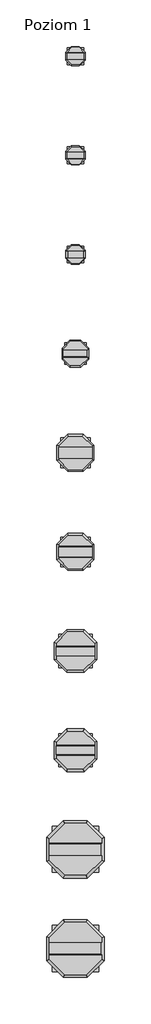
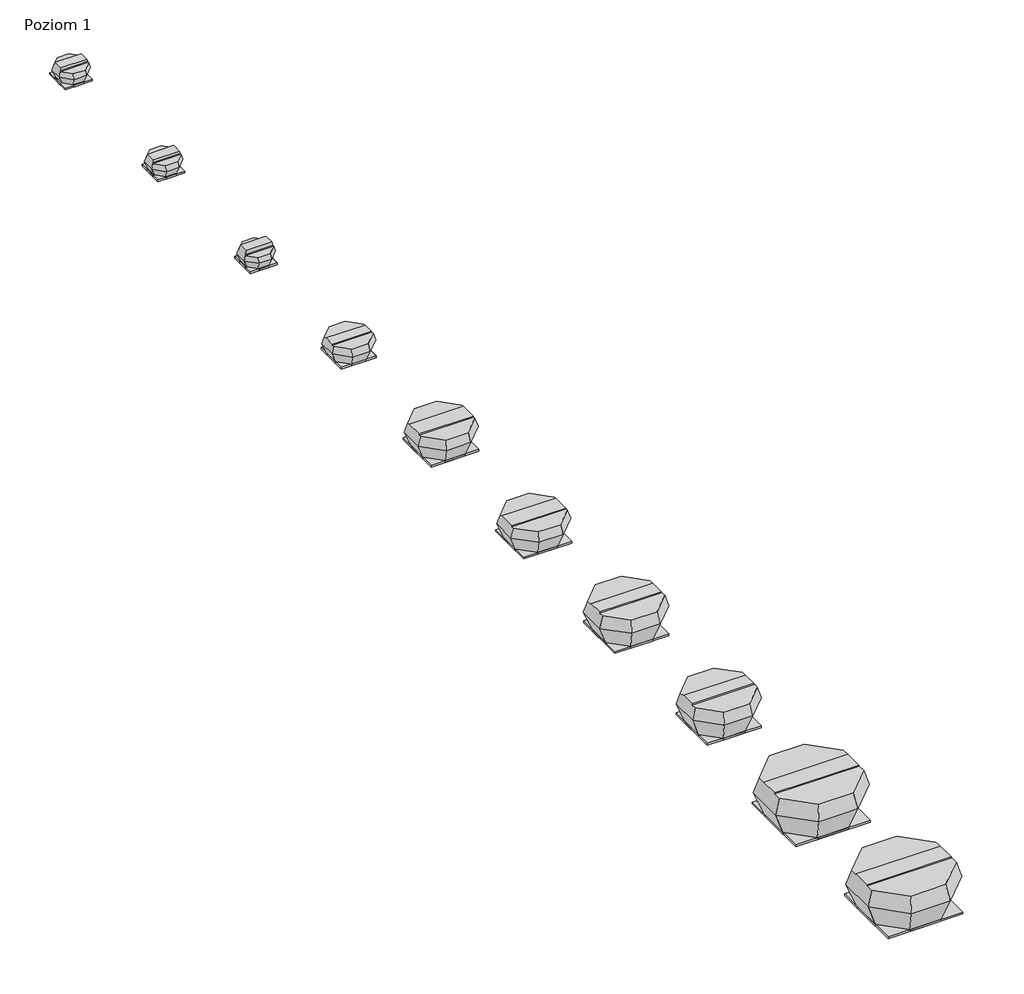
# One storey: 10 duct fittings, 10 unitary equipment elements.
"""IFC4 building model written with IfcOpenShell, lengths in millimetres."""

from ifc_helpers import new_model, si_unit, origin, place, context, project, spatial, transform, mapped, element, save
from components import duct_fitting_180_5dd8c60e, duct_fitting_250_9d40ecca, duct_fitting_400_42e1e227, duct_fitting_560_c8fad201, unitary_equipment_e1577b00, unitary_equipment_c4368d7e, unitary_equipment_ad33cb6a, unitary_equipment_e5baa73c, unitary_equipment_f9dc810f, unitary_equipment_13a05785, unitary_equipment_32682d47, unitary_equipment_6a8eb90f

model = new_model("IFC4")

# Units and contexts
model_context = context("Model", 3, world=origin())
ifc_project = project(units=[si_unit("LENGTHUNIT", "METRE", prefix="MILLI")], contexts=[model_context])

# Site, building, storey
site = spatial("IfcSite", under=ifc_project)
building = spatial("IfcBuilding", under=site)
storey = spatial("IfcBuildingStorey", under=building, Name="Poziom 1", Elevation=0.0)

# Duct fittings
placement = place(None, origin())
duct_fitting_180_shape = duct_fitting_180_5dd8c60e(model_context)
element("IfcDuctFitting", 1, ObjectType="VE-Zagnieżdżone-Akcesorium-ParaForma-Harmann-DAF-Króciec_Przyłączeniowy : 180", at=placement, inside=storey, context=model_context, shape_type="MappedRepresentation", body=[
    mapped(duct_fitting_180_shape, transform((4582.5, 1000.0, 0.0), x_axis=(1.0, 0.0, 0.0), y_axis=(0.0, 1.0, 0.0), z_axis=(0.0, 0.0, 1.0))),
])
element("IfcDuctFitting", 2, ObjectType="VE-Zagnieżdżone-Akcesorium-ParaForma-Harmann-DAF-Króciec_Przyłączeniowy : 180", at=placement, inside=storey, context=model_context, shape_type="MappedRepresentation", body=[
    mapped(duct_fitting_180_shape, transform((4582.5, 3000.0, 0.0), x_axis=(1.0, 0.0, 0.0), y_axis=(0.0, 1.0, 0.0), z_axis=(0.0, 0.0, 1.0))),
])
element("IfcDuctFitting", 3, ObjectType="VE-Zagnieżdżone-Akcesorium-ParaForma-Harmann-DAF-Króciec_Przyłączeniowy : 180", at=placement, inside=storey, context=model_context, shape_type="MappedRepresentation", body=[
    mapped(duct_fitting_180_shape, transform((4582.5, 5000.0, 0.0), x_axis=(1.0, 0.0, 0.0), y_axis=(0.0, 1.0, 0.0), z_axis=(0.0, 0.0, 1.0))),
])
duct_fitting_250_shape = duct_fitting_250_9d40ecca(model_context)
element("IfcDuctFitting", 4, ObjectType="VE-Zagnieżdżone-Akcesorium-ParaForma-Harmann-DAF-Króciec_Przyłączeniowy : 250", at=placement, inside=storey, context=model_context, shape_type="MappedRepresentation", body=[
    mapped(duct_fitting_250_shape, transform((4582.5, -1000.0, 0.0), x_axis=(1.0, 0.0, 0.0), y_axis=(0.0, 1.0, 0.0), z_axis=(0.0, 0.0, 1.0))),
])
duct_fitting_400_shape = duct_fitting_400_42e1e227(model_context)
element("IfcDuctFitting", 5, ObjectType="VE-Zagnieżdżone-Akcesorium-ParaForma-Harmann-DAF-Króciec_Przyłączeniowy : 400", at=placement, inside=storey, context=model_context, shape_type="MappedRepresentation", body=[
    mapped(duct_fitting_400_shape, transform((4582.5, -5000.0, 0.0), x_axis=(1.0, 0.0, 0.0), y_axis=(0.0, 1.0, 0.0), z_axis=(0.0, 0.0, 1.0))),
])
element("IfcDuctFitting", 6, ObjectType="VE-Zagnieżdżone-Akcesorium-ParaForma-Harmann-DAF-Króciec_Przyłączeniowy : 400", at=placement, inside=storey, context=model_context, shape_type="MappedRepresentation", body=[
    mapped(duct_fitting_400_shape, transform((4582.5, -3000.0, 0.0), x_axis=(1.0, 0.0, 0.0), y_axis=(0.0, 1.0, 0.0), z_axis=(0.0, 0.0, 1.0))),
])
element("IfcDuctFitting", 7, ObjectType="VE-Zagnieżdżone-Akcesorium-ParaForma-Harmann-DAF-Króciec_Przyłączeniowy : 400", at=placement, inside=storey, context=model_context, shape_type="MappedRepresentation", body=[
    mapped(duct_fitting_400_shape, transform((4582.5, -9000.0, 0.0), x_axis=(1.0, 0.0, 0.0), y_axis=(0.0, 1.0, 0.0), z_axis=(0.0, 0.0, 1.0))),
])
element("IfcDuctFitting", 8, ObjectType="VE-Zagnieżdżone-Akcesorium-ParaForma-Harmann-DAF-Króciec_Przyłączeniowy : 400", at=placement, inside=storey, context=model_context, shape_type="MappedRepresentation", body=[
    mapped(duct_fitting_400_shape, transform((4582.5, -7000.0, 0.0), x_axis=(1.0, 0.0, 0.0), y_axis=(0.0, 1.0, 0.0), z_axis=(0.0, 0.0, 1.0))),
])
duct_fitting_560_shape = duct_fitting_560_c8fad201(model_context)
element("IfcDuctFitting", 9, ObjectType="VE-Zagnieżdżone-Akcesorium-ParaForma-Harmann-DAF-Króciec_Przyłączeniowy : 560", at=placement, inside=storey, context=model_context, shape_type="MappedRepresentation", body=[
    mapped(duct_fitting_560_shape, transform((4582.5, -13000.0, 0.0), x_axis=(1.0, 0.0, 0.0), y_axis=(0.0, 1.0, 0.0), z_axis=(0.0, 0.0, 1.0))),
])
element("IfcDuctFitting", 10, ObjectType="VE-Zagnieżdżone-Akcesorium-ParaForma-Harmann-DAF-Króciec_Przyłączeniowy : 560", at=placement, inside=storey, context=model_context, shape_type="MappedRepresentation", body=[
    mapped(duct_fitting_560_shape, transform((4582.5, -11000.0, 0.0), x_axis=(1.0, 0.0, 0.0), y_axis=(0.0, 1.0, 0.0), z_axis=(0.0, 0.0, 1.0))),
])

# Unitary equipment
unitary_equipment_shape = unitary_equipment_e1577b00(model_context)
element("IfcUnitaryEquipment", 11, ObjectType="VE-Wentylator-ParaForma-Harmann-VIVER_PT-Wywiewny : 2-190/600PT", at=placement, inside=storey, context=model_context, shape_type="MappedRepresentation", body=[
    mapped(unitary_equipment_shape, transform((4582.5, 5000.0, 0.0), x_axis=(1.0, 0.0, 0.0), y_axis=(0.0, 1.0, 0.0), z_axis=(0.0, 0.0, 1.0))),
])
element("IfcUnitaryEquipment", 12, ObjectType="VE-Wentylator-ParaForma-Harmann-VIVER_PT-Wywiewny : 2-220/950PT", at=placement, inside=storey, context=model_context, shape_type="MappedRepresentation", body=[
    mapped(unitary_equipment_shape, transform((4582.5, 3000.0, 0.0), x_axis=(1.0, 0.0, 0.0), y_axis=(0.0, 1.0, 0.0), z_axis=(0.0, 0.0, 1.0))),
])
unitary_equipment_2_shape = unitary_equipment_c4368d7e(model_context)
element("IfcUnitaryEquipment", 13, ObjectType="VE-Wentylator-ParaForma-Harmann-VIVER_PT-Wywiewny : 2-250/1200PT", at=placement, inside=storey, context=model_context, shape_type="MappedRepresentation", body=[
    mapped(unitary_equipment_2_shape, transform((4582.5, 1000.0, 0.0), x_axis=(1.0, 0.0, 0.0), y_axis=(0.0, 1.0, 0.0), z_axis=(0.0, 0.0, 1.0))),
])
unitary_equipment_3_shape = unitary_equipment_ad33cb6a(model_context)
element("IfcUnitaryEquipment", 14, ObjectType="VE-Wentylator-ParaForma-Harmann-VIVER_PT-Wywiewny : 2-280/1900PT", at=placement, inside=storey, context=model_context, shape_type="MappedRepresentation", body=[
    mapped(unitary_equipment_3_shape, transform((4582.5, -1000.0, 0.0), x_axis=(1.0, 0.0, 0.0), y_axis=(0.0, 1.0, 0.0), z_axis=(0.0, 0.0, 1.0))),
])
unitary_equipment_4_shape = unitary_equipment_e5baa73c(model_context)
element("IfcUnitaryEquipment", 15, ObjectType="VE-Wentylator-ParaForma-Harmann-VIVER_PT-Wywiewny : 4-355/2700PT", at=placement, inside=storey, context=model_context, shape_type="MappedRepresentation", body=[
    mapped(unitary_equipment_4_shape, transform((4582.5, -3000.0, 0.0), x_axis=(1.0, 0.0, 0.0), y_axis=(0.0, 1.0, 0.0), z_axis=(0.0, 0.0, 1.0))),
])
unitary_equipment_5_shape = unitary_equipment_f9dc810f(model_context)
element("IfcUnitaryEquipment", 16, ObjectType="VE-Wentylator-ParaForma-Harmann-VIVER_PT-Wywiewny : 4-400/4400PT", at=placement, inside=storey, context=model_context, shape_type="MappedRepresentation", body=[
    mapped(unitary_equipment_5_shape, transform((4582.5, -5000.0, 0.0), x_axis=(1.0, 0.0, 0.0), y_axis=(0.0, 1.0, 0.0), z_axis=(0.0, 0.0, 1.0))),
])
unitary_equipment_6_shape = unitary_equipment_13a05785(model_context)
element("IfcUnitaryEquipment", 17, ObjectType="VE-Wentylator-ParaForma-Harmann-VIVER_PT-Wywiewny : 4-450/5500PT", at=placement, inside=storey, context=model_context, shape_type="MappedRepresentation", body=[
    mapped(unitary_equipment_6_shape, transform((4582.5, -7000.0, 0.0), x_axis=(1.0, 0.0, 0.0), y_axis=(0.0, 1.0, 0.0), z_axis=(0.0, 0.0, 1.0))),
])
element("IfcUnitaryEquipment", 18, ObjectType="VE-Wentylator-ParaForma-Harmann-VIVER_PT-Wywiewny : 4-500/8000PT", at=placement, inside=storey, context=model_context, shape_type="MappedRepresentation", body=[
    mapped(unitary_equipment_6_shape, transform((4582.5, -9000.0, 0.0), x_axis=(1.0, 0.0, 0.0), y_axis=(0.0, 1.0, 0.0), z_axis=(0.0, 0.0, 1.0))),
])
unitary_equipment_7_shape = unitary_equipment_32682d47(model_context)
element("IfcUnitaryEquipment", 19, ObjectType="VE-Wentylator-ParaForma-Harmann-VIVER_PT-Wywiewny : 4-560/12000PT", at=placement, inside=storey, context=model_context, shape_type="MappedRepresentation", body=[
    mapped(unitary_equipment_7_shape, transform((4582.5, -11000.0, 0.0), x_axis=(1.0, 0.0, 0.0), y_axis=(0.0, 1.0, 0.0), z_axis=(0.0, 0.0, 1.0))),
])
unitary_equipment_8_shape = unitary_equipment_6a8eb90f(model_context)
element("IfcUnitaryEquipment", 20, ObjectType="VE-Wentylator-ParaForma-Harmann-VIVER_PT-Wywiewny : 4-630/14100PT", at=placement, inside=storey, context=model_context, shape_type="MappedRepresentation", body=[
    mapped(unitary_equipment_8_shape, transform((4582.5, -13000.0, 0.0), x_axis=(1.0, 0.0, 0.0), y_axis=(0.0, 1.0, 0.0), z_axis=(0.0, 0.0, 1.0))),
])

save(model, "model.ifc")
